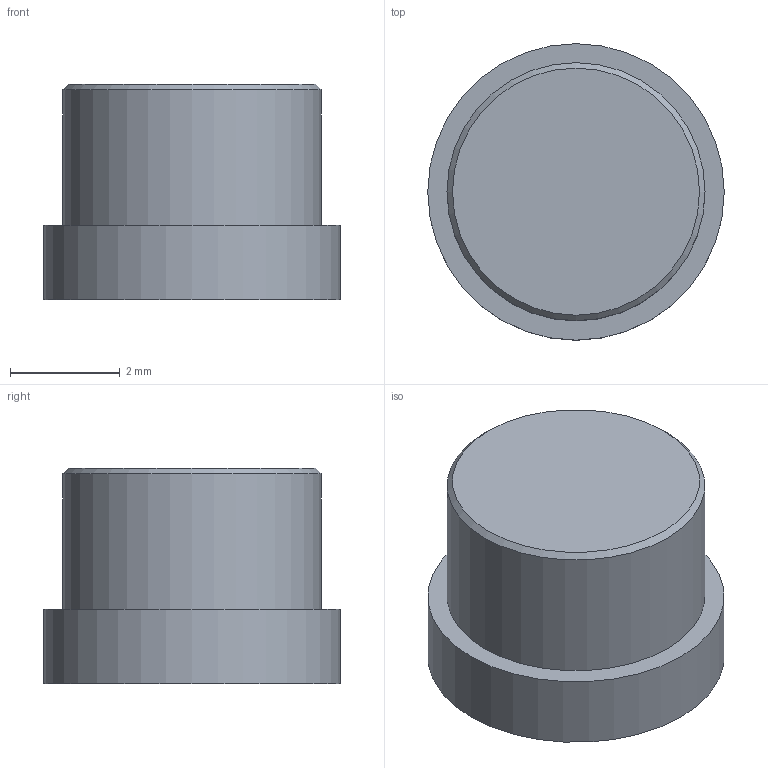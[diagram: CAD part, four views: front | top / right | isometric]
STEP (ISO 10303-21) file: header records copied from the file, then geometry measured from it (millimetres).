
FILE_DESCRIPTION(/* description */ (''),/* implementation_level */ '2;1');
FILE_NAME(/* name */ 'C28_R3_1_04_Circular_Status_Lens_Coaxial_Flange.step',/* time_stamp */ '2026-09-10T17:48:22-07:00',/* author */ (''),/* organization */ (''),/* preprocessor_version */ 'ST-DEVELOPER v20.1',/* originating_system */ 'Autodesk Translation Framework v15.8.0.0',/* authorisation */ '');
FILE_SCHEMA (('AUTOMOTIVE_DESIGN { 1 0 10303 214 3 1 1 }'));
Length unit declared in the file: millimetre
Products named in the file (1): 2026-09-10-17-48-22-765
Bounding box: 5.4 x 5.4 x 3.92 mm (x, y, z)
Volume: 75.4 mm3; surface area: 105.8 mm2
Topology: 1 solids, 1 shells, 6 faces, 8 edges, 5 vertices
Faces by surface type: plane 3, cylinder 2, cone 1
Full cylindrical faces by diameter (mm): 4.7 x1, 5.4 x1
Entity records: 162 total; most frequent: DIRECTION 27, CARTESIAN_POINT 20, ORIENTED_EDGE 16, AXIS2_PLACEMENT_3D 12, EDGE_CURVE 8, EDGE_LOOP 7, FACE_OUTER_BOUND 6, ADVANCED_FACE 6
